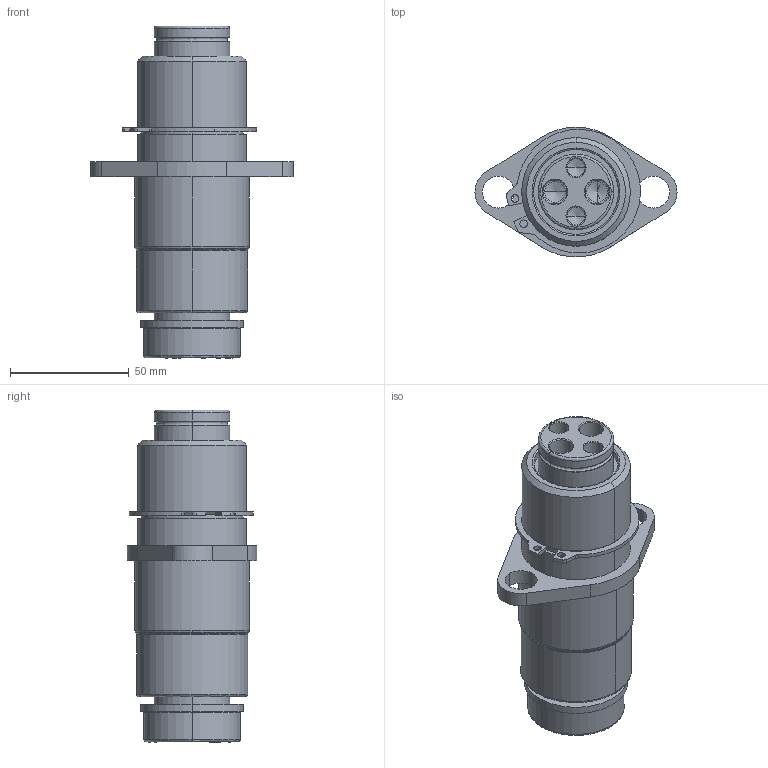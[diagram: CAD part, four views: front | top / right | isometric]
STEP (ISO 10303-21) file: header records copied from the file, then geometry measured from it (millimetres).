
FILE_DESCRIPTION (( 'STEP AP214' ), '1' );
FILE_NAME ('GK120-N4-2-TB-M-XXX.STEP', '2020-09-21T15:57:27', ( '' ), ( '' ), 'SwSTEP 2.0', 'SolidWorks 2017', '' );
FILE_SCHEMA (( 'AUTOMOTIVE_DESIGN' ));
Length unit declared in the file: inch
Products named in the file (7): GK1.25-N4-2-TB-Base; GK120-N4-2-TB-M-XXX; GK120-M-XXX-GuidePin; RetainingRing; GK120-DampeningWasher
Assembly tree (6 placements, depth 3):
  GK120-N4-2-TB-M-XXX
    GK1.25-N4-2-TB-Base
      GK1.25-N4-2-TB-Base
      RetainingRing
    GK120-M-XXX-GuidePin
      GK120-M-XXX-GuidePin
      GK120-DampeningWasher
Bounding box: 85.09 x 54.52 x 139.7 mm (x, y, z)
Volume: 218548.9 mm3; surface area: 54881 mm2
Topology: 4 solids, 4 shells, 137 faces, 321 edges, 194 vertices
Faces by surface type: cylinder 63, cone 30, plane 24, bspline 20
Entity records: 4958 total; most frequent: CARTESIAN_POINT 1287, DIRECTION 739, ORIENTED_EDGE 626, EDGE_CURVE 313, AXIS2_PLACEMENT_3D 308, VERTEX_POINT 194, CIRCLE 180, EDGE_LOOP 159
